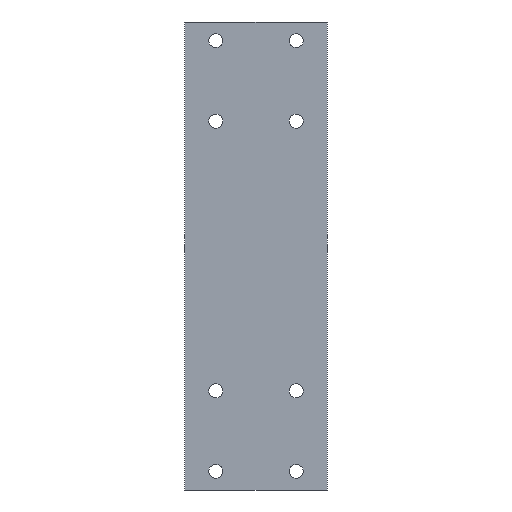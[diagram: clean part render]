
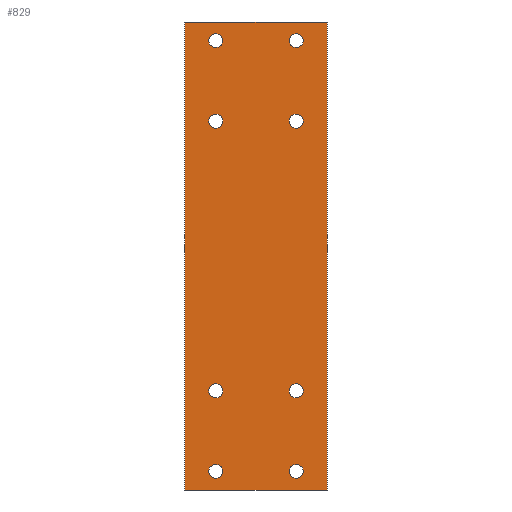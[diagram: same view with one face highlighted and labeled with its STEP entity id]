
A CAD part, front view. The second image highlights one B-rep face of the part: STEP entity #829.
In plain terms, the highlighted planar face has unit normal (0, -1, 0).
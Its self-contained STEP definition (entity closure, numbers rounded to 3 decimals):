
#134=AXIS2_PLACEMENT_3D('Circle Axis2P3D',#132,#133,$) ;
#177=AXIS2_PLACEMENT_3D('Circle Axis2P3D',#175,#176,$) ;
#210=AXIS2_PLACEMENT_3D('Circle Axis2P3D',#208,#209,$) ;
#253=AXIS2_PLACEMENT_3D('Circle Axis2P3D',#251,#252,$) ;
#286=AXIS2_PLACEMENT_3D('Circle Axis2P3D',#284,#285,$) ;
#329=AXIS2_PLACEMENT_3D('Circle Axis2P3D',#327,#328,$) ;
#362=AXIS2_PLACEMENT_3D('Circle Axis2P3D',#360,#361,$) ;
#405=AXIS2_PLACEMENT_3D('Circle Axis2P3D',#403,#404,$) ;
#438=AXIS2_PLACEMENT_3D('Circle Axis2P3D',#436,#437,$) ;
#481=AXIS2_PLACEMENT_3D('Circle Axis2P3D',#479,#480,$) ;
#514=AXIS2_PLACEMENT_3D('Circle Axis2P3D',#512,#513,$) ;
#557=AXIS2_PLACEMENT_3D('Circle Axis2P3D',#555,#556,$) ;
#590=AXIS2_PLACEMENT_3D('Circle Axis2P3D',#588,#589,$) ;
#633=AXIS2_PLACEMENT_3D('Circle Axis2P3D',#631,#632,$) ;
#666=AXIS2_PLACEMENT_3D('Circle Axis2P3D',#664,#665,$) ;
#709=AXIS2_PLACEMENT_3D('Circle Axis2P3D',#707,#708,$) ;
#789=AXIS2_PLACEMENT_3D('Plane Axis2P3D',#786,#787,#788) ;
#50=CARTESIAN_POINT('Vertex',(-45.,0.,-75.5)) ;
#53=CARTESIAN_POINT('Line Origine',(-45.,0.,0.)) ;
#57=CARTESIAN_POINT('Vertex',(-45.,0.,75.5)) ;
#92=CARTESIAN_POINT('Line Origine',(-22.,0.,75.5)) ;
#96=CARTESIAN_POINT('Vertex',(1.,0.,75.5)) ;
#127=CARTESIAN_POINT('Vertex',(-35.,0.,67.25)) ;
#132=CARTESIAN_POINT('Axis2P3D Location',(-35.,0.,69.5)) ;
#136=CARTESIAN_POINT('Vertex',(-35.,0.,71.75)) ;
#175=CARTESIAN_POINT('Axis2P3D Location',(-35.,0.,69.5)) ;
#203=CARTESIAN_POINT('Vertex',(-9.,0.,67.25)) ;
#208=CARTESIAN_POINT('Axis2P3D Location',(-9.,0.,69.5)) ;
#212=CARTESIAN_POINT('Vertex',(-9.,0.,71.75)) ;
#251=CARTESIAN_POINT('Axis2P3D Location',(-9.,0.,69.5)) ;
#279=CARTESIAN_POINT('Vertex',(-35.,0.,41.25)) ;
#284=CARTESIAN_POINT('Axis2P3D Location',(-35.,0.,43.5)) ;
#288=CARTESIAN_POINT('Vertex',(-35.,0.,45.75)) ;
#327=CARTESIAN_POINT('Axis2P3D Location',(-35.,0.,43.5)) ;
#355=CARTESIAN_POINT('Vertex',(-9.,0.,41.25)) ;
#360=CARTESIAN_POINT('Axis2P3D Location',(-9.,0.,43.5)) ;
#364=CARTESIAN_POINT('Vertex',(-9.,0.,45.75)) ;
#403=CARTESIAN_POINT('Axis2P3D Location',(-9.,0.,43.5)) ;
#431=CARTESIAN_POINT('Vertex',(-35.,0.,-71.75)) ;
#436=CARTESIAN_POINT('Axis2P3D Location',(-35.,0.,-69.5)) ;
#440=CARTESIAN_POINT('Vertex',(-35.,0.,-67.25)) ;
#479=CARTESIAN_POINT('Axis2P3D Location',(-35.,0.,-69.5)) ;
#507=CARTESIAN_POINT('Vertex',(-9.,0.,-71.75)) ;
#512=CARTESIAN_POINT('Axis2P3D Location',(-9.,0.,-69.5)) ;
#516=CARTESIAN_POINT('Vertex',(-9.,0.,-67.25)) ;
#555=CARTESIAN_POINT('Axis2P3D Location',(-9.,0.,-69.5)) ;
#583=CARTESIAN_POINT('Vertex',(-35.,0.,-45.75)) ;
#588=CARTESIAN_POINT('Axis2P3D Location',(-35.,0.,-43.5)) ;
#592=CARTESIAN_POINT('Vertex',(-35.,0.,-41.25)) ;
#631=CARTESIAN_POINT('Axis2P3D Location',(-35.,0.,-43.5)) ;
#659=CARTESIAN_POINT('Vertex',(-9.,0.,-45.75)) ;
#664=CARTESIAN_POINT('Axis2P3D Location',(-9.,0.,-43.5)) ;
#668=CARTESIAN_POINT('Vertex',(-9.,0.,-41.25)) ;
#707=CARTESIAN_POINT('Axis2P3D Location',(-9.,0.,-43.5)) ;
#742=CARTESIAN_POINT('Vertex',(1.,0.,-75.5)) ;
#745=CARTESIAN_POINT('Line Origine',(-22.,0.,-75.5)) ;
#774=CARTESIAN_POINT('Line Origine',(1.,0.,0.)) ;
#786=CARTESIAN_POINT('Axis2P3D Location',(0.,0.,0.)) ;
#54=DIRECTION('Vector Direction',(0.,0.,1.)) ;
#93=DIRECTION('Vector Direction',(1.,0.,0.)) ;
#133=DIRECTION('Axis2P3D Direction',(-0.,1.,0.)) ;
#176=DIRECTION('Axis2P3D Direction',(-0.,1.,0.)) ;
#209=DIRECTION('Axis2P3D Direction',(-0.,1.,0.)) ;
#252=DIRECTION('Axis2P3D Direction',(-0.,1.,0.)) ;
#285=DIRECTION('Axis2P3D Direction',(-0.,1.,0.)) ;
#328=DIRECTION('Axis2P3D Direction',(-0.,1.,0.)) ;
#361=DIRECTION('Axis2P3D Direction',(-0.,1.,0.)) ;
#404=DIRECTION('Axis2P3D Direction',(-0.,1.,0.)) ;
#437=DIRECTION('Axis2P3D Direction',(-0.,1.,0.)) ;
#480=DIRECTION('Axis2P3D Direction',(-0.,1.,0.)) ;
#513=DIRECTION('Axis2P3D Direction',(-0.,1.,0.)) ;
#556=DIRECTION('Axis2P3D Direction',(-0.,1.,0.)) ;
#589=DIRECTION('Axis2P3D Direction',(-0.,1.,0.)) ;
#632=DIRECTION('Axis2P3D Direction',(-0.,1.,0.)) ;
#665=DIRECTION('Axis2P3D Direction',(-0.,1.,0.)) ;
#708=DIRECTION('Axis2P3D Direction',(-0.,1.,0.)) ;
#746=DIRECTION('Vector Direction',(-1.,0.,0.)) ;
#775=DIRECTION('Vector Direction',(0.,0.,-1.)) ;
#787=DIRECTION('Axis2P3D Direction',(0.,1.,0.)) ;
#788=DIRECTION('Axis2P3D XDirection',(0.,-0.,1.)) ;
#55=VECTOR('Line Direction',#54,1.) ;
#94=VECTOR('Line Direction',#93,1.) ;
#747=VECTOR('Line Direction',#746,1.) ;
#776=VECTOR('Line Direction',#775,1.) ;
#792=ORIENTED_EDGE('',*,*,#778,.F.) ;
#793=ORIENTED_EDGE('',*,*,#98,.F.) ;
#794=ORIENTED_EDGE('',*,*,#59,.F.) ;
#795=ORIENTED_EDGE('',*,*,#749,.F.) ;
#798=ORIENTED_EDGE('',*,*,#138,.T.) ;
#799=ORIENTED_EDGE('',*,*,#179,.T.) ;
#802=ORIENTED_EDGE('',*,*,#214,.T.) ;
#803=ORIENTED_EDGE('',*,*,#255,.T.) ;
#806=ORIENTED_EDGE('',*,*,#290,.T.) ;
#807=ORIENTED_EDGE('',*,*,#331,.T.) ;
#810=ORIENTED_EDGE('',*,*,#366,.T.) ;
#811=ORIENTED_EDGE('',*,*,#407,.T.) ;
#814=ORIENTED_EDGE('',*,*,#442,.T.) ;
#815=ORIENTED_EDGE('',*,*,#483,.T.) ;
#818=ORIENTED_EDGE('',*,*,#518,.T.) ;
#819=ORIENTED_EDGE('',*,*,#559,.T.) ;
#822=ORIENTED_EDGE('',*,*,#594,.T.) ;
#823=ORIENTED_EDGE('',*,*,#635,.T.) ;
#826=ORIENTED_EDGE('',*,*,#670,.T.) ;
#827=ORIENTED_EDGE('',*,*,#711,.T.) ;
#800=FACE_BOUND('',#797,.T.) ;
#804=FACE_BOUND('',#801,.T.) ;
#808=FACE_BOUND('',#805,.T.) ;
#812=FACE_BOUND('',#809,.T.) ;
#816=FACE_BOUND('',#813,.T.) ;
#820=FACE_BOUND('',#817,.T.) ;
#824=FACE_BOUND('',#821,.T.) ;
#828=FACE_BOUND('',#825,.T.) ;
#829=ADVANCED_FACE('M4 \X2\87BA7EB95B54\X0\1',(#796,#800,#804,#808,#812,#816,#820,#824,#828),#790,.F.) ;
#135=CIRCLE('generated circle',#134,2.25) ;
#178=CIRCLE('generated circle',#177,2.25) ;
#211=CIRCLE('generated circle',#210,2.25) ;
#254=CIRCLE('generated circle',#253,2.25) ;
#287=CIRCLE('generated circle',#286,2.25) ;
#330=CIRCLE('generated circle',#329,2.25) ;
#363=CIRCLE('generated circle',#362,2.25) ;
#406=CIRCLE('generated circle',#405,2.25) ;
#439=CIRCLE('generated circle',#438,2.25) ;
#482=CIRCLE('generated circle',#481,2.25) ;
#515=CIRCLE('generated circle',#514,2.25) ;
#558=CIRCLE('generated circle',#557,2.25) ;
#591=CIRCLE('generated circle',#590,2.25) ;
#634=CIRCLE('generated circle',#633,2.25) ;
#667=CIRCLE('generated circle',#666,2.25) ;
#710=CIRCLE('generated circle',#709,2.25) ;
#59=EDGE_CURVE('',#51,#58,#56,.T.) ;
#98=EDGE_CURVE('',#58,#97,#95,.T.) ;
#138=EDGE_CURVE('',#137,#128,#135,.T.) ;
#179=EDGE_CURVE('',#128,#137,#178,.T.) ;
#214=EDGE_CURVE('',#213,#204,#211,.T.) ;
#255=EDGE_CURVE('',#204,#213,#254,.T.) ;
#290=EDGE_CURVE('',#289,#280,#287,.T.) ;
#331=EDGE_CURVE('',#280,#289,#330,.T.) ;
#366=EDGE_CURVE('',#365,#356,#363,.T.) ;
#407=EDGE_CURVE('',#356,#365,#406,.T.) ;
#442=EDGE_CURVE('',#441,#432,#439,.T.) ;
#483=EDGE_CURVE('',#432,#441,#482,.T.) ;
#518=EDGE_CURVE('',#517,#508,#515,.T.) ;
#559=EDGE_CURVE('',#508,#517,#558,.T.) ;
#594=EDGE_CURVE('',#593,#584,#591,.T.) ;
#635=EDGE_CURVE('',#584,#593,#634,.T.) ;
#670=EDGE_CURVE('',#669,#660,#667,.T.) ;
#711=EDGE_CURVE('',#660,#669,#710,.T.) ;
#749=EDGE_CURVE('',#743,#51,#748,.T.) ;
#778=EDGE_CURVE('',#97,#743,#777,.T.) ;
#791=EDGE_LOOP('',(#792,#793,#794,#795)) ;
#797=EDGE_LOOP('',(#798,#799)) ;
#801=EDGE_LOOP('',(#802,#803)) ;
#805=EDGE_LOOP('',(#806,#807)) ;
#809=EDGE_LOOP('',(#810,#811)) ;
#813=EDGE_LOOP('',(#814,#815)) ;
#817=EDGE_LOOP('',(#818,#819)) ;
#821=EDGE_LOOP('',(#822,#823)) ;
#825=EDGE_LOOP('',(#826,#827)) ;
#796=FACE_OUTER_BOUND('',#791,.T.) ;
#56=LINE('Line',#53,#55) ;
#95=LINE('Line',#92,#94) ;
#748=LINE('Line',#745,#747) ;
#777=LINE('Line',#774,#776) ;
#790=PLANE('',#789) ;
#51=VERTEX_POINT('',#50) ;
#58=VERTEX_POINT('',#57) ;
#97=VERTEX_POINT('',#96) ;
#128=VERTEX_POINT('',#127) ;
#137=VERTEX_POINT('',#136) ;
#204=VERTEX_POINT('',#203) ;
#213=VERTEX_POINT('',#212) ;
#280=VERTEX_POINT('',#279) ;
#289=VERTEX_POINT('',#288) ;
#356=VERTEX_POINT('',#355) ;
#365=VERTEX_POINT('',#364) ;
#432=VERTEX_POINT('',#431) ;
#441=VERTEX_POINT('',#440) ;
#508=VERTEX_POINT('',#507) ;
#517=VERTEX_POINT('',#516) ;
#584=VERTEX_POINT('',#583) ;
#593=VERTEX_POINT('',#592) ;
#660=VERTEX_POINT('',#659) ;
#669=VERTEX_POINT('',#668) ;
#743=VERTEX_POINT('',#742) ;
